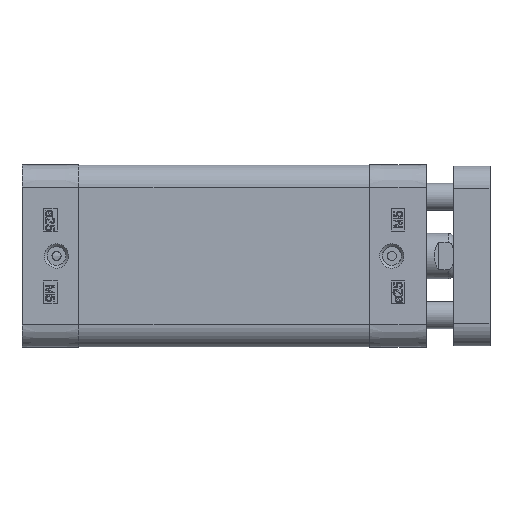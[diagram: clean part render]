
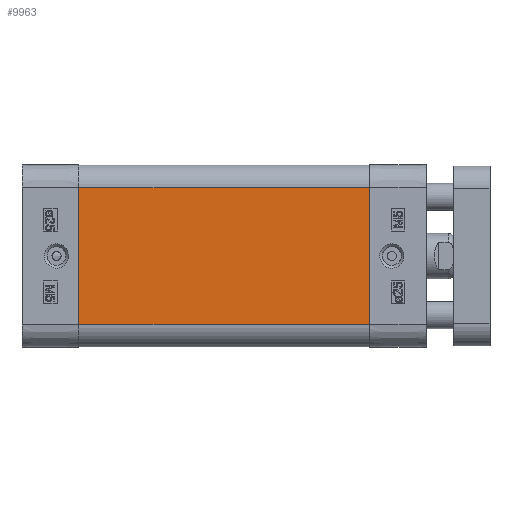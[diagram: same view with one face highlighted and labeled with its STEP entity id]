
A CAD part, left-side view. The second image highlights one B-rep face of the part: STEP entity #9963.
In plain terms, the highlighted planar face has unit normal (-1, 0, 0).
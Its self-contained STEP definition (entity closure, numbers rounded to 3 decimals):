
#9882=CARTESIAN_POINT('',(-20.,0.0,-15.));
#9883=VERTEX_POINT('',#9882);
#9891=CARTESIAN_POINT('',(-20.,0.0,15.0));
#9892=VERTEX_POINT('',#9891);
#9893=CARTESIAN_POINT('',(-20.,0.0,-15.));
#9894=DIRECTION('',(0.0,0.0,1.0));
#9895=VECTOR('',#9894,30.);
#9896=LINE('',#9893,#9895);
#9897=EDGE_CURVE('',#9883,#9892,#9896,.T.);
#9933=CARTESIAN_POINT('',(-20.,0.0,-15.));
#9934=DIRECTION('',(-1.0,0.0,0.0));
#9935=DIRECTION('',(0.0,0.0,1.0));
#9936=AXIS2_PLACEMENT_3D('',#9933,#9934,#9935);
#9937=PLANE('',#9936);
#9938=CARTESIAN_POINT('',(-20.,-64.0,-15.));
#9939=VERTEX_POINT('',#9938);
#9940=CARTESIAN_POINT('',(-20.,-64.0,15.0));
#9941=VERTEX_POINT('',#9940);
#9942=CARTESIAN_POINT('',(-20.,-64.0,-15.));
#9943=DIRECTION('',(0.0,0.0,1.0));
#9944=VECTOR('',#9943,30.);
#9945=LINE('',#9942,#9944);
#9946=EDGE_CURVE('',#9939,#9941,#9945,.T.);
#9947=ORIENTED_EDGE('',*,*,#9946,.T.);
#9948=CARTESIAN_POINT('',(-20.,0.0,15.0));
#9949=DIRECTION('',(0.0,-1.0,0.0));
#9950=VECTOR('',#9949,64.0);
#9951=LINE('',#9948,#9950);
#9952=EDGE_CURVE('',#9892,#9941,#9951,.T.);
#9953=ORIENTED_EDGE('',*,*,#9952,.F.);
#9954=ORIENTED_EDGE('',*,*,#9897,.F.);
#9955=CARTESIAN_POINT('',(-20.,0.0,-15.));
#9956=DIRECTION('',(0.0,-1.0,0.0));
#9957=VECTOR('',#9956,64.0);
#9958=LINE('',#9955,#9957);
#9959=EDGE_CURVE('',#9883,#9939,#9958,.T.);
#9960=ORIENTED_EDGE('',*,*,#9959,.T.);
#9961=EDGE_LOOP('',(#9947,#9953,#9954,#9960));
#9962=FACE_OUTER_BOUND('',#9961,.T.);
#9963=ADVANCED_FACE('',(#9962),#9937,.T.);
